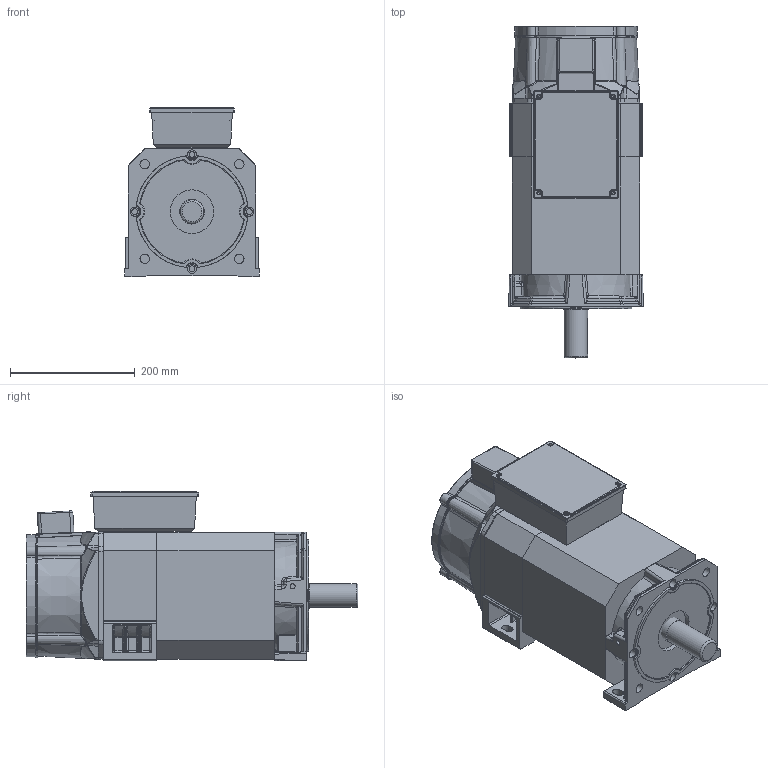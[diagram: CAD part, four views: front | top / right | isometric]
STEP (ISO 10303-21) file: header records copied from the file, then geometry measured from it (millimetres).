
FILE_DESCRIPTION(/* description */ (''),/* implementation_level */ '2;1');
FILE_NAME(/* name */ '204ZJY-4-5.5-15.stp',/* time_stamp */ '2024-01-15T15:29:12+08:00',/* author */ (''),/* organization */ (''),/* preprocessor_version */ 'ST-DEVELOPER v18.1',/* originating_system */ 'SIEMENS PLM Software NX 2000',/* authorisation */ '');
FILE_SCHEMA (('AUTOMOTIVE_DESIGN { 1 0 10303 214 3 1 1 1 }'));
Products named in the file (1): 204ZJY-4-3.7-15电机外形图(立卧通用)
Bounding box: 215.99 x 533 x 273 mm (x, y, z)
Volume: 17777334.9 mm3; surface area: 908004.1 mm2
Topology: 8 solids, 8 shells, 1690 faces, 4112 edges, 2368 vertices
Faces by surface type: cylinder 624, torus 449, plane 300, bspline 223, cone 52, sphere 42
Full cylindrical faces by diameter (mm): 4 x1, 5 x4, 6 x5, 7 x8, 7.5 x4, 8 x2, 9.5 x8, 11 x8, 13.5 x4, 14.5 x4, 15 x4, 38 x1, 39.8 x1, 70 x1, 187 x1
Entity records: 54994 total; most frequent: CARTESIAN_POINT 20005, ORIENTED_EDGE 7824, DIRECTION 6365, EDGE_CURVE 3912, AXIS2_PLACEMENT_3D 2678, VERTEX_POINT 2325, EDGE_LOOP 1861, ADVANCED_FACE 1690
